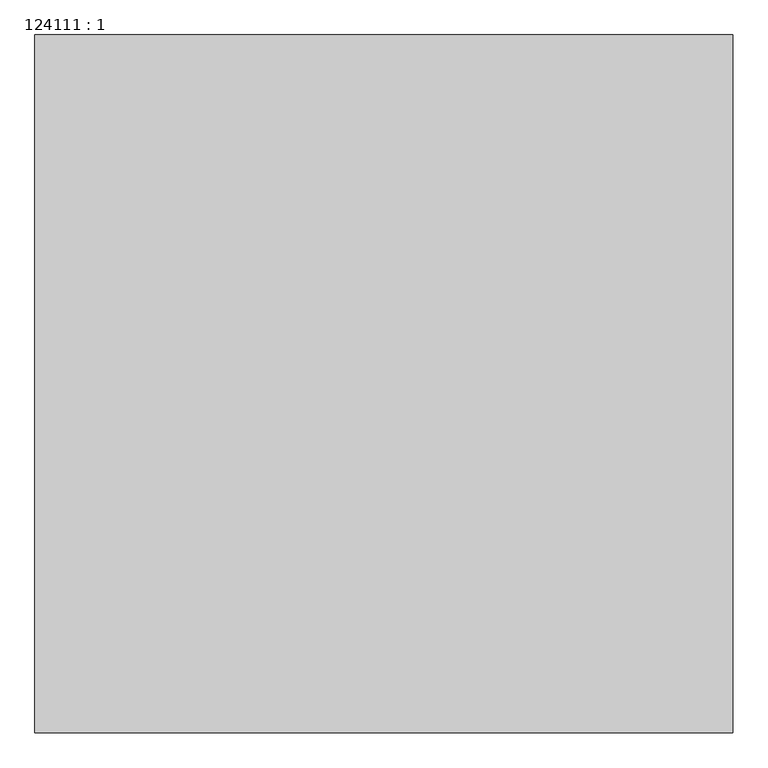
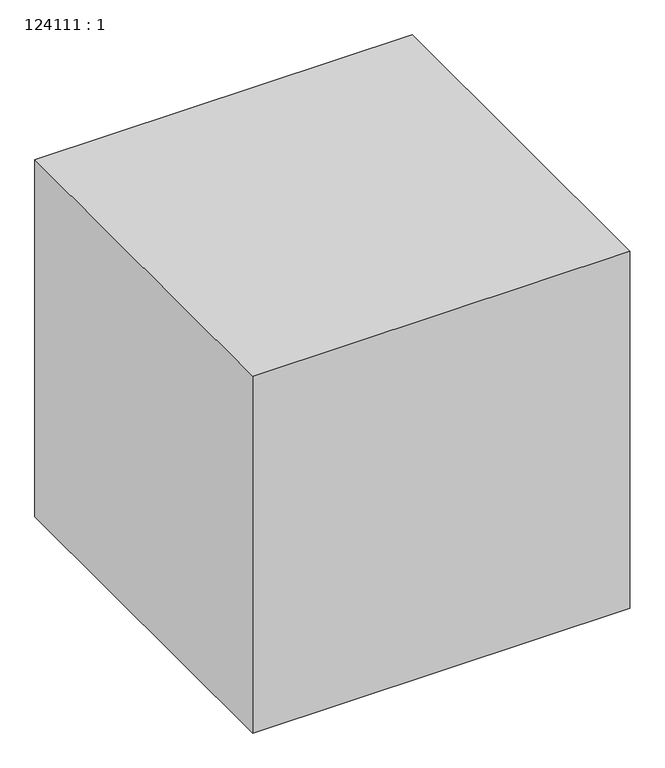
"""IFC4 building model written with IfcOpenShell, lengths in millimetres: proxy geometry, 124111 : 1."""

from ifc_helpers import new_model, si_unit, origin, origin_with_axes, place, context, project, spatial, polyline, outline, extrude, source, transform, mapped, element, save


def proxy_124111_1_333161a3(model_context):
    return source(origin(), model_context, "Body", "SweptSolid", [
        extrude(outline(polyline([(27692.0243292, -4664.7705528), (27692.0243292, -5664.7705528), (26692.0243292, -5664.7705528), (26692.0243292, -4664.7705528), (27692.0243292, -4664.7705528)])), origin_with_axes(), (0.0, 0.0, 1.0), 1000.0),
    ])


if __name__ == "__main__":
    model = new_model("IFC4")
    model_context = context("Model", 3, world=origin())
    ifc_project = project(units=[si_unit("LENGTHUNIT", "METRE", prefix="MILLI")], contexts=[model_context])
    site = spatial("IfcSite", under=ifc_project)
    building = spatial("IfcBuilding", under=site)
    placement = place(None, origin())
    proxy_124111_1_shape = proxy_124111_1_333161a3(model_context)
    element("IfcBuildingElementProxy", 1, Name="124111 : 1", ObjectType="124111 : 1", at=placement, inside=building, context=model_context, shape_type="MappedRepresentation", body=[
        mapped(proxy_124111_1_shape, transform((0.0, 0.0, 0.0), x_axis=(1.0, 0.0, 0.0), y_axis=(0.0, 1.0, 0.0), z_axis=(0.0, 0.0, 1.0))),
    ])
    save(model, "model.ifc")
